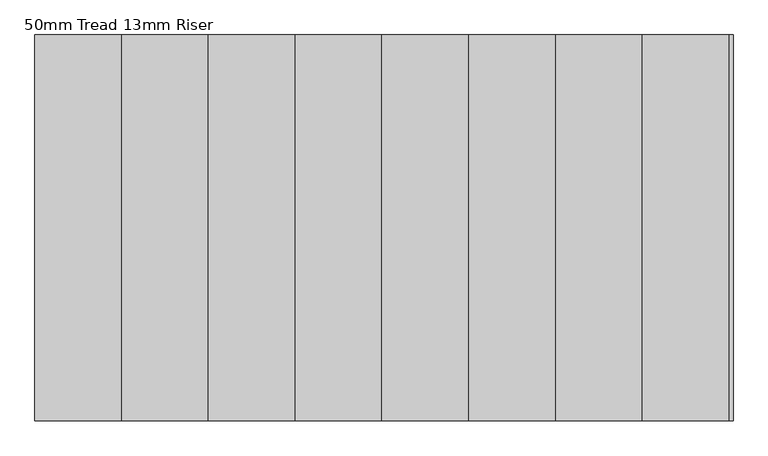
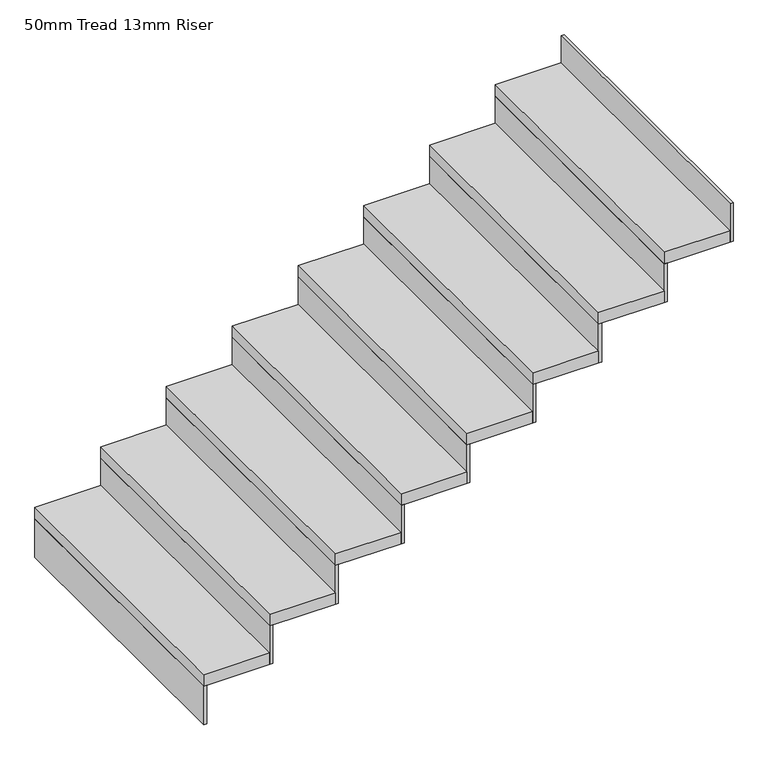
"""IFC4 building model written with IfcOpenShell, lengths in millimetres: stair flight geometry, 50mm Tread 13mm Riser."""

from ifc_helpers import new_model, si_unit, frame, origin, place, context, project, spatial, polyline, outline, extrude, source, transform, mapped, element, save


def stair_flight_50mm_tread_13mm_riser_43bc9998(model_context):
    return source(origin(), model_context, "Body", "SweptSolid", [
        extrude(outline(polyline([(-77946.0913038, 13392.1710387), (-77958.5913038, 13392.1710387), (-77958.5913038, 14592.1710387), (-77946.0913038, 14592.1710387), (-77946.0913038, 13392.1710387)])), frame((0.0, 0.0, 45105.0), z_axis=(0.0, 0.0, 1.0), x_axis=(1.0, 0.0, 0.0)), (0.0, 0.0, 1.0), 167.5),
        extrude(outline(polyline([(-77688.5913038, 14592.1710387), (-77688.5913038, 13392.1710387), (-77958.5913038, 13392.1710387), (-77958.5913038, 14592.1710387), (-77688.5913038, 14592.1710387)])), frame((0.0, 0.0, 45272.5), z_axis=(0.0, 0.0, 1.0), x_axis=(1.0, 0.0, 0.0)), (0.0, 0.0, 1.0), 50.0),
        extrude(outline(polyline([(-77676.0913038, 13392.1710387), (-77688.5913038, 13392.1710387), (-77688.5913038, 14592.1710387), (-77676.0913038, 14592.1710387), (-77676.0913038, 13392.1710387)])), frame((0.0, 0.0, 45272.5), z_axis=(0.0, 0.0, 1.0), x_axis=(1.0, 0.0, 0.0)), (0.0, 0.0, 1.0), 167.5),
        extrude(outline(polyline([(-77418.5913038, 14592.1710387), (-77418.5913038, 13392.1710387), (-77688.5913038, 13392.1710387), (-77688.5913038, 14592.1710387), (-77418.5913038, 14592.1710387)])), frame((0.0, 0.0, 45440.0), z_axis=(0.0, 0.0, 1.0), x_axis=(1.0, 0.0, 0.0)), (0.0, 0.0, 1.0), 50.0),
        extrude(outline(polyline([(-77406.0913038, 13392.1710387), (-77418.5913038, 13392.1710387), (-77418.5913038, 14592.1710387), (-77406.0913038, 14592.1710387), (-77406.0913038, 13392.1710387)])), frame((0.0, 0.0, 45440.0), z_axis=(0.0, 0.0, 1.0), x_axis=(1.0, 0.0, 0.0)), (0.0, 0.0, 1.0), 167.5),
        extrude(outline(polyline([(-77148.5913038, 14592.1710387), (-77148.5913038, 13392.1710387), (-77418.5913038, 13392.1710387), (-77418.5913038, 14592.1710387), (-77148.5913038, 14592.1710387)])), frame((0.0, 0.0, 45607.5), z_axis=(0.0, 0.0, 1.0), x_axis=(1.0, 0.0, 0.0)), (0.0, 0.0, 1.0), 50.0),
        extrude(outline(polyline([(-77136.0913038, 13392.1710387), (-77148.5913038, 13392.1710387), (-77148.5913038, 14592.1710387), (-77136.0913038, 14592.1710387), (-77136.0913038, 13392.1710387)])), frame((0.0, 0.0, 45607.5), z_axis=(0.0, 0.0, 1.0), x_axis=(1.0, 0.0, 0.0)), (0.0, 0.0, 1.0), 167.5),
        extrude(outline(polyline([(-76878.5913038, 14592.1710387), (-76878.5913038, 13392.1710387), (-77148.5913038, 13392.1710387), (-77148.5913038, 14592.1710387), (-76878.5913038, 14592.1710387)])), frame((0.0, 0.0, 45775.0), z_axis=(0.0, 0.0, 1.0), x_axis=(1.0, 0.0, 0.0)), (0.0, 0.0, 1.0), 50.0),
        extrude(outline(polyline([(-76866.0913038, 13392.1710387), (-76878.5913038, 13392.1710387), (-76878.5913038, 14592.1710387), (-76866.0913038, 14592.1710387), (-76866.0913038, 13392.1710387)])), frame((0.0, 0.0, 45775.0), z_axis=(0.0, 0.0, 1.0), x_axis=(1.0, 0.0, 0.0)), (0.0, 0.0, 1.0), 167.5),
        extrude(outline(polyline([(-76608.5913038, 14592.1710387), (-76608.5913038, 13392.1710387), (-76878.5913038, 13392.1710387), (-76878.5913038, 14592.1710387), (-76608.5913038, 14592.1710387)])), frame((0.0, 0.0, 45942.5), z_axis=(0.0, 0.0, 1.0), x_axis=(1.0, 0.0, 0.0)), (0.0, 0.0, 1.0), 50.0),
        extrude(outline(polyline([(-76596.0913038, 13392.1710387), (-76608.5913038, 13392.1710387), (-76608.5913038, 14592.1710387), (-76596.0913038, 14592.1710387), (-76596.0913038, 13392.1710387)])), frame((0.0, 0.0, 45942.5), z_axis=(0.0, 0.0, 1.0), x_axis=(1.0, 0.0, 0.0)), (0.0, 0.0, 1.0), 167.5),
        extrude(outline(polyline([(-76338.5913038, 14592.1710387), (-76338.5913038, 13392.1710387), (-76608.5913038, 13392.1710387), (-76608.5913038, 14592.1710387), (-76338.5913038, 14592.1710387)])), frame((0.0, 0.0, 46110.0), z_axis=(0.0, 0.0, 1.0), x_axis=(1.0, 0.0, 0.0)), (0.0, 0.0, 1.0), 50.0),
        extrude(outline(polyline([(-76326.0913038, 13392.1710387), (-76338.5913038, 13392.1710387), (-76338.5913038, 14592.1710387), (-76326.0913038, 14592.1710387), (-76326.0913038, 13392.1710387)])), frame((0.0, 0.0, 46110.0), z_axis=(0.0, 0.0, 1.0), x_axis=(1.0, 0.0, 0.0)), (0.0, 0.0, 1.0), 167.5),
        extrude(outline(polyline([(-76068.5913038, 14592.1710387), (-76068.5913038, 13392.1710387), (-76338.5913038, 13392.1710387), (-76338.5913038, 14592.1710387), (-76068.5913038, 14592.1710387)])), frame((0.0, 0.0, 46277.5), z_axis=(0.0, 0.0, 1.0), x_axis=(1.0, 0.0, 0.0)), (0.0, 0.0, 1.0), 50.0),
        extrude(outline(polyline([(-76056.0913038, 13392.1710387), (-76068.5913038, 13392.1710387), (-76068.5913038, 14592.1710387), (-76056.0913038, 14592.1710387), (-76056.0913038, 13392.1710387)])), frame((0.0, 0.0, 46277.5), z_axis=(0.0, 0.0, 1.0), x_axis=(1.0, 0.0, 0.0)), (0.0, 0.0, 1.0), 167.5),
        extrude(outline(polyline([(-75786.0913038, 13392.1710387), (-75798.5913038, 13392.1710387), (-75798.5913038, 14592.1710387), (-75786.0913038, 14592.1710387), (-75786.0913038, 13392.1710387)])), frame((0.0, 0.0, 46445.0), z_axis=(0.0, 0.0, 1.0), x_axis=(1.0, 0.0, 0.0)), (0.0, 0.0, 1.0), 167.5),
        extrude(outline(polyline([(-75798.5913038, 14592.1710387), (-75798.5913038, 13392.1710387), (-76068.5913038, 13392.1710387), (-76068.5913038, 14592.1710387), (-75798.5913038, 14592.1710387)])), frame((0.0, 0.0, 46445.0), z_axis=(0.0, 0.0, 1.0), x_axis=(1.0, 0.0, 0.0)), (0.0, 0.0, 1.0), 50.0),
    ])


if __name__ == "__main__":
    model = new_model("IFC4")
    model_context = context("Model", 3, world=origin())
    ifc_project = project(units=[si_unit("LENGTHUNIT", "METRE", prefix="MILLI")], contexts=[model_context])
    site = spatial("IfcSite", under=ifc_project)
    building = spatial("IfcBuilding", under=site)
    placement = place(None, origin())
    stair_flight_50mm_tread_13mm_riser_shape = stair_flight_50mm_tread_13mm_riser_43bc9998(model_context)
    element("IfcStairFlight", 1, ObjectType="50mm Tread 13mm Riser", at=placement, inside=building, context=model_context, shape_type="MappedRepresentation", body=[
        mapped(stair_flight_50mm_tread_13mm_riser_shape, transform((0.0, 0.0, 0.0), x_axis=(1.0, 0.0, 0.0), y_axis=(0.0, 1.0, 0.0), z_axis=(0.0, 0.0, 1.0))),
    ])
    save(model, "model.ifc")
